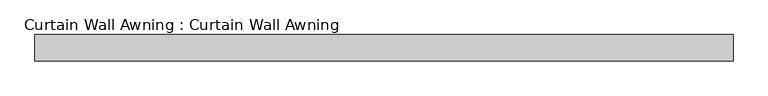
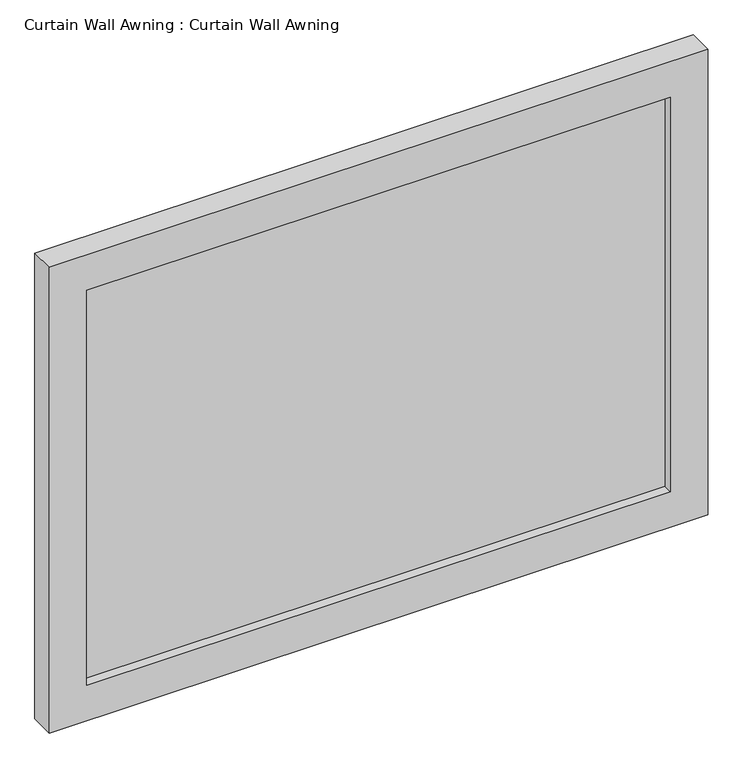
"""IFC4 building model written with IfcOpenShell, lengths in millimetres: plate geometry, Curtain Wall Awning : Curtain Wall Awning."""

from ifc_helpers import new_model, si_unit, frame, origin, place, context, project, spatial, polyline, outline, extrude, source, transform, mapped, element, save


def curtain_wall_awning_curtain_wall_awning_fddd8c55(model_context):
    return source(origin(), model_context, "Body", "SweptSolid", [
        extrude(outline(polyline([(593.3386914, 44.45), (-593.3386914, 44.45), (-593.3386914, 57.15), (593.3386914, 57.15), (593.3386914, 44.45)])), frame((0.0, 0.0, 76.2), z_axis=(0.0, 0.0, 1.0), x_axis=(1.0, 0.0, 0.0)), (0.0, 0.0, 1.0), 848.2193103),
        extrude(outline(polyline([(1000.6193103, -669.5386914), (0.0, -669.5386914), (0.0, 669.5386914), (1000.6193103, 669.5386914), (1000.6193103, -669.5386914)]), holes=[polyline([(924.4193103, -593.3386914), (924.4193103, 593.3386914), (76.2, 593.3386914), (76.2, -593.3386914), (924.4193103, -593.3386914)])]), frame((0.0, 25.4, 0.0), z_axis=(0.0, 1.0, 0.0), x_axis=(0.0, 0.0, 1.0)), (0.0, 0.0, 1.0), 50.8),
    ])


if __name__ == "__main__":
    model = new_model("IFC4")
    model_context = context("Model", 3, world=origin())
    ifc_project = project(units=[si_unit("LENGTHUNIT", "METRE", prefix="MILLI")], contexts=[model_context])
    site = spatial("IfcSite", under=ifc_project)
    building = spatial("IfcBuilding", under=site)
    placement = place(None, origin())
    curtain_wall_awning_curtain_wall_awning_shape = curtain_wall_awning_curtain_wall_awning_fddd8c55(model_context)
    element("IfcPlate", 1, ObjectType="Curtain Wall Awning : Curtain Wall Awning", at=placement, inside=building, context=model_context, shape_type="MappedRepresentation", body=[
        mapped(curtain_wall_awning_curtain_wall_awning_shape, transform((0.0, 0.0, 0.0), x_axis=(1.0, 0.0, 0.0), y_axis=(0.0, 1.0, 0.0), z_axis=(0.0, 0.0, 1.0))),
    ])
    save(model, "model.ifc")
